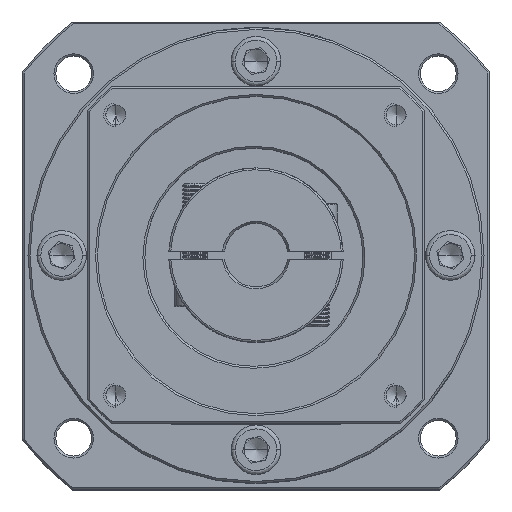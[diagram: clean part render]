
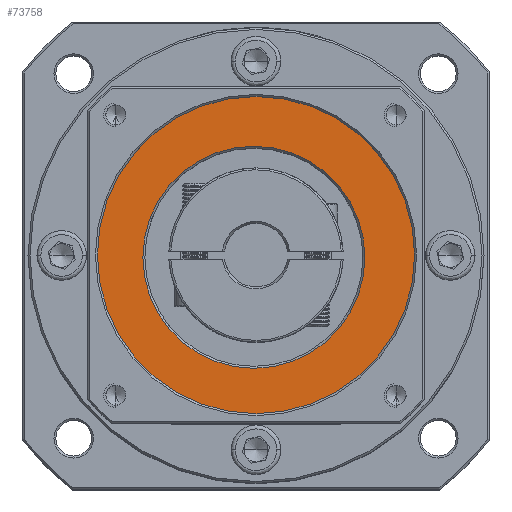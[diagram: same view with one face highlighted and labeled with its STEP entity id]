
A CAD part, top view. The second image highlights one B-rep face of the part: STEP entity #73758.
In plain terms, the highlighted planar face has unit normal (0, 0, 1).
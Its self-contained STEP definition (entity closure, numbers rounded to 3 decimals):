
#862 = VERTEX_POINT ( 'NONE', #40435 ) ;
#7220 = CARTESIAN_POINT ( 'NONE',  ( 64.249, 29.128, -13.796 ) ) ;
#9238 = DIRECTION ( 'NONE',  ( 0., 0., -1. ) ) ;
#9298 = DIRECTION ( 'NONE',  ( 0., 0., 1. ) ) ;
#17120 = ORIENTED_EDGE ( 'NONE', *, *, #24285, .T. ) ;
#19862 = CARTESIAN_POINT ( 'NONE',  ( 64.249, 69.128, -13.796 ) ) ;
#22688 = CARTESIAN_POINT ( 'NONE',  ( 64.249, 109.128, -13.796 ) ) ;
#24285 = EDGE_CURVE ( 'NONE', #81396, #53172, #49713, .T. ) ;
#30419 = EDGE_LOOP ( 'NONE', ( #103400, #84761 ) ) ;
#31316 = CARTESIAN_POINT ( 'NONE',  ( 64.249, 69.128, -13.796 ) ) ;
#32352 = AXIS2_PLACEMENT_3D ( 'NONE', #75476, #44726, #64951 ) ;
#38325 = CARTESIAN_POINT ( 'NONE',  ( 63.714, 68.586, -13.796 ) ) ;
#39669 = DIRECTION ( 'NONE',  ( 0., 1., 0. ) ) ;
#40435 = CARTESIAN_POINT ( 'NONE',  ( 63.714, 96.586, -13.796 ) ) ;
#44726 = DIRECTION ( 'NONE',  ( 0., 0., 1. ) ) ;
#44879 = DIRECTION ( 'NONE',  ( 0., 1., 0. ) ) ;
#49365 = PLANE ( 'NONE',  #60537 ) ;
#49713 = CIRCLE ( 'NONE', #57495, 40. ) ;
#50837 = CIRCLE ( 'NONE', #120410, 28. ) ;
#53172 = VERTEX_POINT ( 'NONE', #7220 ) ;
#57495 = AXIS2_PLACEMENT_3D ( 'NONE', #31316, #92460, #81861 ) ;
#60537 = AXIS2_PLACEMENT_3D ( 'NONE', #19862, #9298, #39669 ) ;
#63202 = FACE_BOUND ( 'NONE', #30419, .T. ) ;
#64951 = DIRECTION ( 'NONE',  ( 0., 1., 0. ) ) ;
#67886 = ORIENTED_EDGE ( 'NONE', *, *, #112897, .T. ) ;
#68056 = EDGE_CURVE ( 'NONE', #116322, #862, #86347, .T. ) ;
#68552 = CIRCLE ( 'NONE', #32352, 40. ) ;
#73758 = ADVANCED_FACE ( 'NONE', ( #86808, #63202 ), #49365, .T. ) ;
#75476 = CARTESIAN_POINT ( 'NONE',  ( 64.249, 69.128, -13.796 ) ) ;
#79195 = DIRECTION ( 'NONE',  ( 0., 1., 0. ) ) ;
#81396 = VERTEX_POINT ( 'NONE', #22688 ) ;
#81861 = DIRECTION ( 'NONE',  ( 0., 1., 0. ) ) ;
#84761 = ORIENTED_EDGE ( 'NONE', *, *, #68056, .T. ) ;
#86347 = CIRCLE ( 'NONE', #108650, 28. ) ;
#86633 = CARTESIAN_POINT ( 'NONE',  ( 63.714, 40.586, -13.796 ) ) ;
#86808 = FACE_OUTER_BOUND ( 'NONE', #116858, .T. ) ;
#92460 = DIRECTION ( 'NONE',  ( 0., 0., 1. ) ) ;
#97207 = CARTESIAN_POINT ( 'NONE',  ( 63.714, 68.586, -13.796 ) ) ;
#103400 = ORIENTED_EDGE ( 'NONE', *, *, #114464, .T. ) ;
#108650 = AXIS2_PLACEMENT_3D ( 'NONE', #38325, #9238, #79195 ) ;
#112897 = EDGE_CURVE ( 'NONE', #53172, #81396, #68552, .T. ) ;
#114464 = EDGE_CURVE ( 'NONE', #862, #116322, #50837, .T. ) ;
#115832 = DIRECTION ( 'NONE',  ( 0., 0., -1. ) ) ;
#116322 = VERTEX_POINT ( 'NONE', #86633 ) ;
#116858 = EDGE_LOOP ( 'NONE', ( #17120, #67886 ) ) ;
#120410 = AXIS2_PLACEMENT_3D ( 'NONE', #97207, #115832, #44879 ) ;
